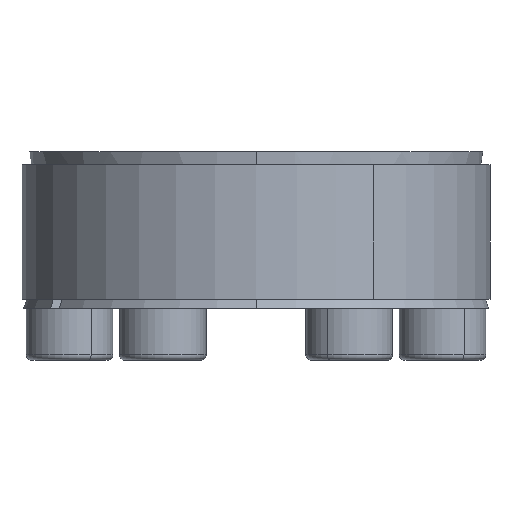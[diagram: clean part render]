
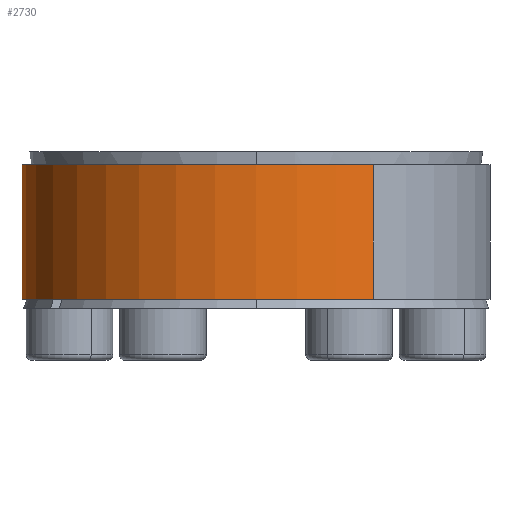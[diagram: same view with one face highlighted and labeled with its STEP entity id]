
A CAD part, left-side view. The second image highlights one B-rep face of the part: STEP entity #2730.
In plain terms, the highlighted cylindrical face has radius 26.985 mm (diameter 53.97 mm), a partial arc.
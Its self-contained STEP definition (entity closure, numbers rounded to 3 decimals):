
#252 = DIRECTION ( 'NONE',  ( 0., 0., -1. ) ) ;
#644 = ORIENTED_EDGE ( 'NONE', *, *, #1863, .F. ) ;
#1342 = CIRCLE ( 'NONE', #6387, 26.985 ) ;
#1343 = CARTESIAN_POINT ( 'NONE',  ( 0., 0., 16.527 ) ) ;
#1472 = ORIENTED_EDGE ( 'NONE', *, *, #1609, .F. ) ;
#1506 = DIRECTION ( 'NONE',  ( 0., 0., -1. ) ) ;
#1549 = CARTESIAN_POINT ( 'NONE',  ( 0., 0., 1.027 ) ) ;
#1571 = DIRECTION ( 'NONE',  ( 0.866, 0.5, 0. ) ) ;
#1609 = EDGE_CURVE ( 'NONE', #4673, #5017, #9451, .T. ) ;
#1738 = CARTESIAN_POINT ( 'NONE',  ( -23.37, -13.493, 1.027 ) ) ;
#1844 = VERTEX_POINT ( 'NONE', #3547 ) ;
#1863 = EDGE_CURVE ( 'NONE', #1844, #4673, #5228, .T. ) ;
#2088 = DIRECTION ( 'NONE',  ( -0.866, -0.5, 0. ) ) ;
#2294 = DIRECTION ( 'NONE',  ( -0.866, -0.5, 0. ) ) ;
#2445 = CARTESIAN_POINT ( 'NONE',  ( -23.37, -13.493, 16.527 ) ) ;
#2730 = ADVANCED_FACE ( 'NONE', ( #3380 ), #4447, .T. ) ;
#3212 = CARTESIAN_POINT ( 'NONE',  ( -23.37, -13.493, 16.527 ) ) ;
#3232 = VECTOR ( 'NONE', #7679, 1000. ) ;
#3286 = ORIENTED_EDGE ( 'NONE', *, *, #4705, .T. ) ;
#3380 = FACE_OUTER_BOUND ( 'NONE', #9135, .T. ) ;
#3473 = LINE ( 'NONE', #4001, #7207 ) ;
#3547 = CARTESIAN_POINT ( 'NONE',  ( 23.37, 13.493, 16.527 ) ) ;
#3667 = AXIS2_PLACEMENT_3D ( 'NONE', #1343, #6585, #2088 ) ;
#4001 = CARTESIAN_POINT ( 'NONE',  ( 23.37, 13.493, 16.527 ) ) ;
#4447 = CYLINDRICAL_SURFACE ( 'NONE', #5665, 26.985 ) ;
#4673 = VERTEX_POINT ( 'NONE', #2445 ) ;
#4705 = EDGE_CURVE ( 'NONE', #1844, #9481, #3473, .T. ) ;
#5017 = VERTEX_POINT ( 'NONE', #1738 ) ;
#5228 = CIRCLE ( 'NONE', #3667, 26.985 ) ;
#5665 = AXIS2_PLACEMENT_3D ( 'NONE', #7518, #1506, #1571 ) ;
#5684 = ORIENTED_EDGE ( 'NONE', *, *, #7508, .T. ) ;
#5825 = CARTESIAN_POINT ( 'NONE',  ( 23.37, 13.493, 1.027 ) ) ;
#6387 = AXIS2_PLACEMENT_3D ( 'NONE', #1549, #6769, #2294 ) ;
#6585 = DIRECTION ( 'NONE',  ( 0., 0., 1. ) ) ;
#6769 = DIRECTION ( 'NONE',  ( 0., 0., 1. ) ) ;
#7207 = VECTOR ( 'NONE', #252, 1000. ) ;
#7508 = EDGE_CURVE ( 'NONE', #9481, #5017, #1342, .T. ) ;
#7518 = CARTESIAN_POINT ( 'NONE',  ( 0., 0., 16.527 ) ) ;
#7679 = DIRECTION ( 'NONE',  ( 0., 0., -1. ) ) ;
#9135 = EDGE_LOOP ( 'NONE', ( #1472, #644, #3286, #5684 ) ) ;
#9451 = LINE ( 'NONE', #3212, #3232 ) ;
#9481 = VERTEX_POINT ( 'NONE', #5825 ) ;
